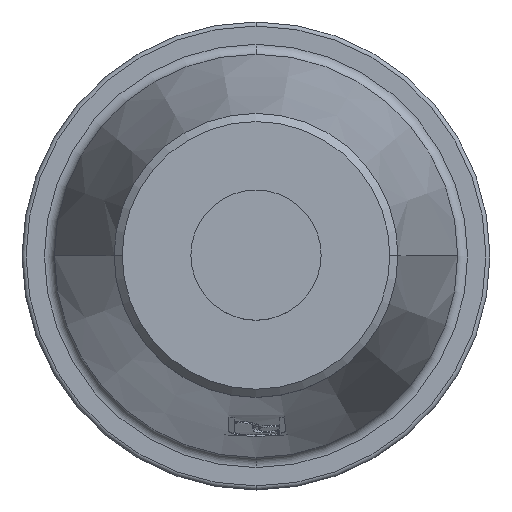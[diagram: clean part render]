
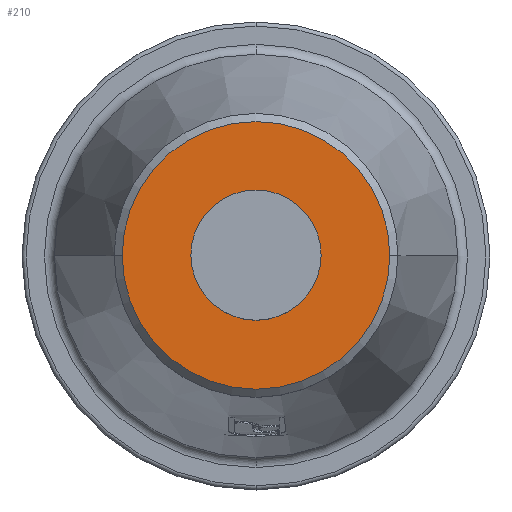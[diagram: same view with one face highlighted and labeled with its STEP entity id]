
A CAD part, top view. The second image highlights one B-rep face of the part: STEP entity #210.
In plain terms, the highlighted planar face has unit normal (0, 0, 1).
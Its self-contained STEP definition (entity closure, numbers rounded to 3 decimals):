
#210=ADVANCED_FACE('',(#486),#487,.T.);
#486=FACE_OUTER_BOUND('',#868,.T.);
#487=PLANE('',#869);
#868=EDGE_LOOP('',(#1264,#1265));
#869=AXIS2_PLACEMENT_3D('',#1266,#1267,#1268);
#1264=ORIENTED_EDGE('',*,*,#2178,.F.);
#1265=ORIENTED_EDGE('',*,*,#2182,.F.);
#1266=CARTESIAN_POINT('',(307.316,488.163,175.));
#1267=DIRECTION('',(0.,0.,1.0));
#1268=DIRECTION('',(1.0,0.,0.));
#2178=EDGE_CURVE('',#2567,#2569,#2570,.T.);
#2182=EDGE_CURVE('',#2569,#2567,#2574,.T.);
#2567=VERTEX_POINT('',#3122);
#2569=VERTEX_POINT('',#3125);
#2570=CIRCLE('',#3126,65.775);
#2574=CIRCLE('',#3131,65.775);
#3122=CARTESIAN_POINT('',(283.179,488.163,175.));
#3125=CARTESIAN_POINT('',(414.73,488.163,175.));
#3126=AXIS2_PLACEMENT_3D('',#4359,#4360,#4361);
#3131=AXIS2_PLACEMENT_3D('',#4366,#4367,#4368);
#4359=CARTESIAN_POINT('',(348.954,488.163,175.));
#4360=DIRECTION('',(0.,0.,-1.0));
#4361=DIRECTION('',(-1.0,0.,0.));
#4366=CARTESIAN_POINT('',(348.954,488.163,175.));
#4367=DIRECTION('',(0.,0.,-1.0));
#4368=DIRECTION('',(-1.0,0.,0.));
